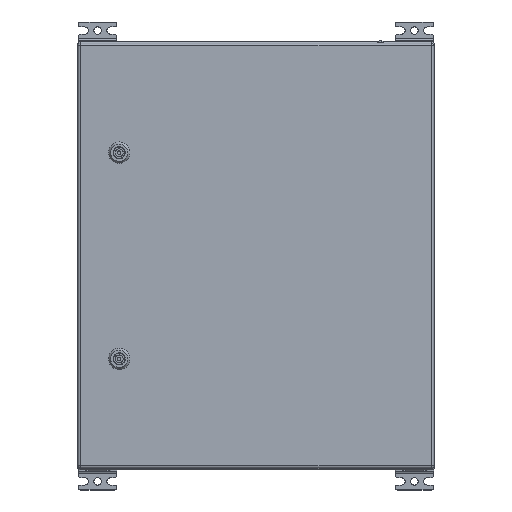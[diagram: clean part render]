
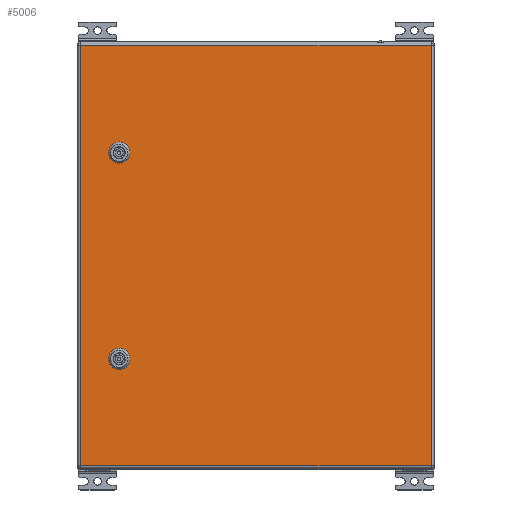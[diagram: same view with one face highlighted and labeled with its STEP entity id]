
A CAD part, top view. The second image highlights one B-rep face of the part: STEP entity #5006.
In plain terms, the highlighted planar face has unit normal (0, 0, 1).
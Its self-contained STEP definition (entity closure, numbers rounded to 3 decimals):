
#5006=ADVANCED_FACE('',(#12820,#12822,#12824),#12826,.T.);
#12820=FACE_BOUND('',#12821,.T.);
#12821=EDGE_LOOP('',(#35148,#35149,#35150,#35151));
#12822=FACE_BOUND('',#12823,.T.);
#12823=EDGE_LOOP('',(#35152,#35153,#35154,#35155,#35156,#35157,#35158,#35159));
#12824=FACE_BOUND('',#12825,.T.);
#12825=EDGE_LOOP('',(#35160,#35161,#35162,#35163,#35164,#35165,#35166,#35167));
#12826=PLANE('',#12827);
#12827=AXIS2_PLACEMENT_3D('',#12828,#12829,#12830);
#12828=CARTESIAN_POINT('',(0.,0.,1.5));
#12829=DIRECTION('',(0.,0.,1.));
#12830=DIRECTION('',(1.,0.,0.));
#35148=ORIENTED_EDGE('',*,*,#39357,.T.);
#35149=ORIENTED_EDGE('',*,*,#39358,.T.);
#35150=ORIENTED_EDGE('',*,*,#39359,.T.);
#35151=ORIENTED_EDGE('',*,*,#39360,.T.);
#35152=ORIENTED_EDGE('',*,*,#39325,.T.);
#35153=ORIENTED_EDGE('',*,*,#39339,.T.);
#35154=ORIENTED_EDGE('',*,*,#39337,.T.);
#35155=ORIENTED_EDGE('',*,*,#39335,.T.);
#35156=ORIENTED_EDGE('',*,*,#39333,.T.);
#35157=ORIENTED_EDGE('',*,*,#39331,.T.);
#35158=ORIENTED_EDGE('',*,*,#39329,.T.);
#35159=ORIENTED_EDGE('',*,*,#39327,.T.);
#35160=ORIENTED_EDGE('',*,*,#39309,.T.);
#35161=ORIENTED_EDGE('',*,*,#39323,.T.);
#35162=ORIENTED_EDGE('',*,*,#39321,.T.);
#35163=ORIENTED_EDGE('',*,*,#39319,.T.);
#35164=ORIENTED_EDGE('',*,*,#39317,.T.);
#35165=ORIENTED_EDGE('',*,*,#39315,.T.);
#35166=ORIENTED_EDGE('',*,*,#39313,.T.);
#35167=ORIENTED_EDGE('',*,*,#39311,.T.);
#39309=EDGE_CURVE('',#42743,#42741,#42744,.T.);
#39311=EDGE_CURVE('',#42746,#42743,#42747,.F.);
#39313=EDGE_CURVE('',#42749,#42746,#42750,.T.);
#39315=EDGE_CURVE('',#42752,#42749,#42753,.F.);
#39317=EDGE_CURVE('',#42755,#42752,#42756,.T.);
#39319=EDGE_CURVE('',#42758,#42755,#42759,.F.);
#39321=EDGE_CURVE('',#42761,#42758,#42762,.T.);
#39323=EDGE_CURVE('',#42741,#42761,#42764,.F.);
#39325=EDGE_CURVE('',#42767,#42765,#42768,.T.);
#39327=EDGE_CURVE('',#42770,#42767,#42771,.F.);
#39329=EDGE_CURVE('',#42773,#42770,#42774,.T.);
#39331=EDGE_CURVE('',#42776,#42773,#42777,.F.);
#39333=EDGE_CURVE('',#42779,#42776,#42780,.T.);
#39335=EDGE_CURVE('',#42782,#42779,#42783,.F.);
#39337=EDGE_CURVE('',#42785,#42782,#42786,.T.);
#39339=EDGE_CURVE('',#42765,#42785,#42788,.F.);
#39357=EDGE_CURVE('',#42815,#42816,#42817,.T.);
#39358=EDGE_CURVE('',#42816,#42818,#42819,.T.);
#39359=EDGE_CURVE('',#42818,#42820,#42821,.T.);
#39360=EDGE_CURVE('',#42820,#42815,#42822,.T.);
#42741=VERTEX_POINT('',#51426);
#42743=VERTEX_POINT('',#51430);
#42744=CIRCLE('',#51431,11.25);
#42746=VERTEX_POINT('',#51438);
#42747=LINE('',#51439,#51440);
#42749=VERTEX_POINT('',#51445);
#42750=CIRCLE('',#51446,11.25);
#42752=VERTEX_POINT('',#51453);
#42753=LINE('',#51454,#51455);
#42755=VERTEX_POINT('',#51460);
#42756=CIRCLE('',#51461,11.25);
#42758=VERTEX_POINT('',#51468);
#42759=LINE('',#51469,#51470);
#42761=VERTEX_POINT('',#51475);
#42762=CIRCLE('',#51476,11.25);
#42764=LINE('',#51483,#51484);
#42765=VERTEX_POINT('',#51486);
#42767=VERTEX_POINT('',#51490);
#42768=CIRCLE('',#51491,11.25);
#42770=VERTEX_POINT('',#51498);
#42771=LINE('',#51499,#51500);
#42773=VERTEX_POINT('',#51505);
#42774=CIRCLE('',#51506,11.25);
#42776=VERTEX_POINT('',#51513);
#42777=LINE('',#51514,#51515);
#42779=VERTEX_POINT('',#51520);
#42780=CIRCLE('',#51521,11.25);
#42782=VERTEX_POINT('',#51528);
#42783=LINE('',#51529,#51530);
#42785=VERTEX_POINT('',#51535);
#42786=CIRCLE('',#51536,11.25);
#42788=LINE('',#51543,#51544);
#42815=VERTEX_POINT('',#51607);
#42816=VERTEX_POINT('',#51608);
#42817=LINE('',#51609,#51610);
#42818=VERTEX_POINT('',#51612);
#42819=LINE('',#51613,#51614);
#42820=VERTEX_POINT('',#51616);
#42821=LINE('',#51617,#51618);
#42822=LINE('',#51620,#51621);
#51426=CARTESIAN_POINT('',(-154.955,-44.4,1.5));
#51430=CARTESIAN_POINT('',(-160.1,-49.545,1.5));
#51431=AXIS2_PLACEMENT_3D('',#51432,#51433,#51434);
#51432=CARTESIAN_POINT('',(-150.,-54.5,1.5));
#51433=DIRECTION('',(0.,0.,-1.));
#51434=DIRECTION('',(-0.898,0.44,0.));
#51438=CARTESIAN_POINT('',(-160.1,-59.455,1.5));
#51439=CARTESIAN_POINT('',(-160.1,-49.545,1.5));
#51440=VECTOR('',#51441,1.);
#51441=DIRECTION('',(0.,-1.,0.));
#51445=CARTESIAN_POINT('',(-154.955,-64.6,1.5));
#51446=AXIS2_PLACEMENT_3D('',#51447,#51448,#51449);
#51447=CARTESIAN_POINT('',(-150.,-54.5,1.5));
#51448=DIRECTION('',(0.,0.,-1.));
#51449=DIRECTION('',(-0.44,-0.898,0.));
#51453=CARTESIAN_POINT('',(-145.045,-64.6,1.5));
#51454=CARTESIAN_POINT('',(-154.955,-64.6,1.5));
#51455=VECTOR('',#51456,1.);
#51456=DIRECTION('',(1.,0.,0.));
#51460=CARTESIAN_POINT('',(-139.9,-59.455,1.5));
#51461=AXIS2_PLACEMENT_3D('',#51462,#51463,#51464);
#51462=CARTESIAN_POINT('',(-150.,-54.5,1.5));
#51463=DIRECTION('',(0.,0.,-1.));
#51464=DIRECTION('',(0.898,-0.44,0.));
#51468=CARTESIAN_POINT('',(-139.9,-49.545,1.5));
#51469=CARTESIAN_POINT('',(-139.9,-59.455,1.5));
#51470=VECTOR('',#51471,1.);
#51471=DIRECTION('',(0.,1.,0.));
#51475=CARTESIAN_POINT('',(-145.045,-44.4,1.5));
#51476=AXIS2_PLACEMENT_3D('',#51477,#51478,#51479);
#51477=CARTESIAN_POINT('',(-150.,-54.5,1.5));
#51478=DIRECTION('',(0.,0.,-1.));
#51479=DIRECTION('',(0.44,0.898,0.));
#51483=CARTESIAN_POINT('',(-145.045,-44.4,1.5));
#51484=VECTOR('',#51485,1.);
#51485=DIRECTION('',(-1.,0.,0.));
#51486=CARTESIAN_POINT('',(-443.955,-44.4,1.5));
#51490=CARTESIAN_POINT('',(-449.1,-49.545,1.5));
#51491=AXIS2_PLACEMENT_3D('',#51492,#51493,#51494);
#51492=CARTESIAN_POINT('',(-439.,-54.5,1.5));
#51493=DIRECTION('',(0.,0.,-1.));
#51494=DIRECTION('',(-0.898,0.44,0.));
#51498=CARTESIAN_POINT('',(-449.1,-59.455,1.5));
#51499=CARTESIAN_POINT('',(-449.1,-49.545,1.5));
#51500=VECTOR('',#51501,1.);
#51501=DIRECTION('',(0.,-1.,0.));
#51505=CARTESIAN_POINT('',(-443.955,-64.6,1.5));
#51506=AXIS2_PLACEMENT_3D('',#51507,#51508,#51509);
#51507=CARTESIAN_POINT('',(-439.,-54.5,1.5));
#51508=DIRECTION('',(0.,0.,-1.));
#51509=DIRECTION('',(-0.44,-0.898,0.));
#51513=CARTESIAN_POINT('',(-434.045,-64.6,1.5));
#51514=CARTESIAN_POINT('',(-443.955,-64.6,1.5));
#51515=VECTOR('',#51516,1.);
#51516=DIRECTION('',(1.,0.,0.));
#51520=CARTESIAN_POINT('',(-428.9,-59.455,1.5));
#51521=AXIS2_PLACEMENT_3D('',#51522,#51523,#51524);
#51522=CARTESIAN_POINT('',(-439.,-54.5,1.5));
#51523=DIRECTION('',(0.,0.,-1.));
#51524=DIRECTION('',(0.898,-0.44,0.));
#51528=CARTESIAN_POINT('',(-428.9,-49.545,1.5));
#51529=CARTESIAN_POINT('',(-428.9,-59.455,1.5));
#51530=VECTOR('',#51531,1.);
#51531=DIRECTION('',(0.,1.,0.));
#51535=CARTESIAN_POINT('',(-434.045,-44.4,1.5));
#51536=AXIS2_PLACEMENT_3D('',#51537,#51538,#51539);
#51537=CARTESIAN_POINT('',(-439.,-54.5,1.5));
#51538=DIRECTION('',(0.,0.,-1.));
#51539=DIRECTION('',(0.44,0.898,0.));
#51543=CARTESIAN_POINT('',(-434.045,-44.4,1.5));
#51544=VECTOR('',#51545,1.);
#51545=DIRECTION('',(-1.,0.,0.));
#51607=CARTESIAN_POINT('',(-589.,0.,1.5));
#51608=CARTESIAN_POINT('',(-589.,-492.,1.5));
#51609=CARTESIAN_POINT('',(-589.,0.,1.5));
#51610=VECTOR('',#51611,1.);
#51611=DIRECTION('',(0.,-1.,0.));
#51612=CARTESIAN_POINT('',(0.,-492.,1.5));
#51613=CARTESIAN_POINT('',(-589.,-492.,1.5));
#51614=VECTOR('',#51615,1.);
#51615=DIRECTION('',(1.,0.,0.));
#51616=CARTESIAN_POINT('',(0.,0.,1.5));
#51617=CARTESIAN_POINT('',(0.,-492.,1.5));
#51618=VECTOR('',#51619,1.);
#51619=DIRECTION('',(0.,1.,0.));
#51620=CARTESIAN_POINT('',(0.,0.,1.5));
#51621=VECTOR('',#51622,1.);
#51622=DIRECTION('',(-1.,0.,0.));
